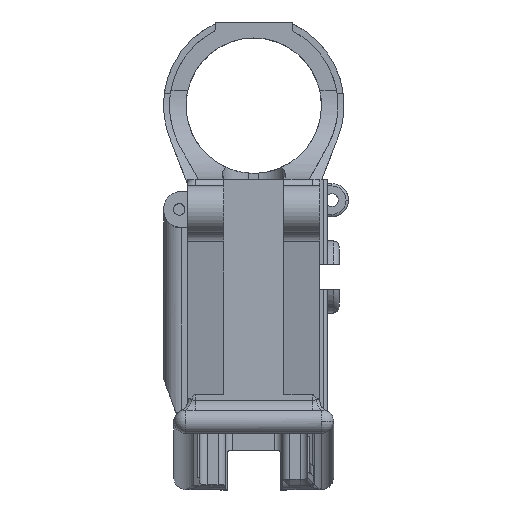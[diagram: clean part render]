
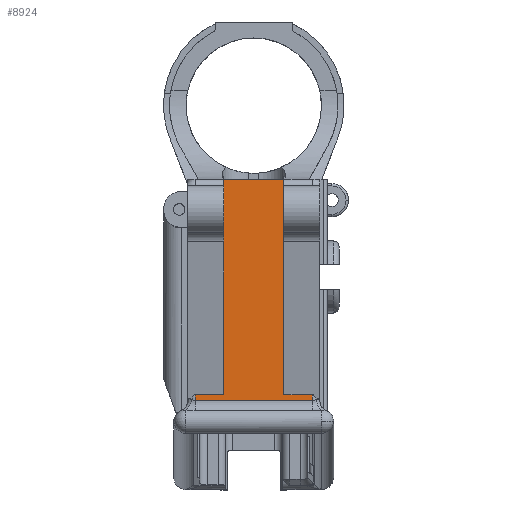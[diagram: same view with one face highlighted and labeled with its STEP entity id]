
A CAD part, top view. The second image highlights one B-rep face of the part: STEP entity #8924.
In plain terms, the highlighted planar face has unit normal (0, 0, 1).
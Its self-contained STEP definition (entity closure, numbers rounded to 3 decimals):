
#10 = DIRECTION ( 'NONE',  ( 1., 0., 0. ) ) ;
#29 = DIRECTION ( 'NONE',  ( 0., 0., 1. ) ) ;
#123 = PLANE ( 'NONE',  #19678 ) ;
#130 = CARTESIAN_POINT ( 'NONE',  ( -187.157, -8.341, 108.826 ) ) ;
#604 = ORIENTED_EDGE ( 'NONE', *, *, #17709, .F. ) ;
#607 = ORIENTED_EDGE ( 'NONE', *, *, #17763, .F. ) ;
#608 = ORIENTED_EDGE ( 'NONE', *, *, #17771, .F. ) ;
#609 = ORIENTED_EDGE ( 'NONE', *, *, #17729, .T. ) ;
#610 = ORIENTED_EDGE ( 'NONE', *, *, #17727, .T. ) ;
#611 = ORIENTED_EDGE ( 'NONE', *, *, #17723, .F. ) ;
#612 = ORIENTED_EDGE ( 'NONE', *, *, #17767, .F. ) ;
#613 = ORIENTED_EDGE ( 'NONE', *, *, #17721, .T. ) ;
#5178 = CARTESIAN_POINT ( 'NONE',  ( -69.868, -18.243, 108.826 ) ) ;
#5179 = CARTESIAN_POINT ( 'NONE',  ( -69.868, -19.471, 108.826 ) ) ;
#5182 = CARTESIAN_POINT ( 'NONE',  ( -63.823, -18.243, 108.826 ) ) ;
#5184 = CARTESIAN_POINT ( 'NONE',  ( -45.078, -19.471, 108.826 ) ) ;
#5202 = CARTESIAN_POINT ( 'NONE',  ( -51.123, 27.219, 108.826 ) ) ;
#5211 = CARTESIAN_POINT ( 'NONE',  ( -51.123, -18.243, 108.826 ) ) ;
#5212 = CARTESIAN_POINT ( 'NONE',  ( -45.078, -18.243, 108.826 ) ) ;
#5258 = CARTESIAN_POINT ( 'NONE',  ( -63.823, 27.219, 108.826 ) ) ;
#7894 = LINE ( 'NONE', #10567, #7902 ) ;
#7902 = VECTOR ( 'NONE', #10572, 1000. ) ;
#7914 = LINE ( 'NONE', #10597, #7920 ) ;
#7920 = VECTOR ( 'NONE', #10602, 1000. ) ;
#7921 = LINE ( 'NONE', #10603, #7923 ) ;
#7923 = VECTOR ( 'NONE', #10601, 1000. ) ;
#7924 = LINE ( 'NONE', #10620, #7931 ) ;
#7926 = LINE ( 'NONE', #10615, #7928 ) ;
#7928 = VECTOR ( 'NONE', #10611, 1000. ) ;
#7931 = VECTOR ( 'NONE', #10614, 1000. ) ;
#7966 = LINE ( 'NONE', #10748, #7972 ) ;
#7972 = VECTOR ( 'NONE', #10754, 1000. ) ;
#7975 = LINE ( 'NONE', #10767, #7977 ) ;
#7977 = VECTOR ( 'NONE', #10768, 1000. ) ;
#7982 = LINE ( 'NONE', #10775, #7985 ) ;
#7985 = VECTOR ( 'NONE', #10777, 1000. ) ;
#8924 = ADVANCED_FACE ( 'NONE', ( #14368 ), #123, .T. ) ;
#9338 = VERTEX_POINT ( 'NONE', #5178 ) ;
#9339 = VERTEX_POINT ( 'NONE', #5179 ) ;
#9342 = VERTEX_POINT ( 'NONE', #5182 ) ;
#9344 = VERTEX_POINT ( 'NONE', #5184 ) ;
#9362 = VERTEX_POINT ( 'NONE', #5202 ) ;
#9371 = VERTEX_POINT ( 'NONE', #5211 ) ;
#9372 = VERTEX_POINT ( 'NONE', #5212 ) ;
#9418 = VERTEX_POINT ( 'NONE', #5258 ) ;
#10567 = CARTESIAN_POINT ( 'NONE',  ( -187.157, 27.219, 108.826 ) ) ;
#10572 = DIRECTION ( 'NONE',  ( 1., 0., 0. ) ) ;
#10597 = CARTESIAN_POINT ( 'NONE',  ( -63.823, 60.747, 108.826 ) ) ;
#10601 = DIRECTION ( 'NONE',  ( 0., -1., 0. ) ) ;
#10602 = DIRECTION ( 'NONE',  ( 0., -1., 0. ) ) ;
#10603 = CARTESIAN_POINT ( 'NONE',  ( -51.123, 60.747, 108.826 ) ) ;
#10611 = DIRECTION ( 'NONE',  ( 1., 0., 0. ) ) ;
#10614 = DIRECTION ( 'NONE',  ( 0., 1., 0. ) ) ;
#10615 = CARTESIAN_POINT ( 'NONE',  ( -45.078, -19.471, 108.826 ) ) ;
#10620 = CARTESIAN_POINT ( 'NONE',  ( -45.078, -8.341, 108.826 ) ) ;
#10748 = CARTESIAN_POINT ( 'NONE',  ( -69.868, -8.341, 108.826 ) ) ;
#10754 = DIRECTION ( 'NONE',  ( 0., 1., 0. ) ) ;
#10767 = CARTESIAN_POINT ( 'NONE',  ( -187.157, -18.243, 108.826 ) ) ;
#10768 = DIRECTION ( 'NONE',  ( 1., 0., 0. ) ) ;
#10775 = CARTESIAN_POINT ( 'NONE',  ( -187.157, -18.243, 108.826 ) ) ;
#10777 = DIRECTION ( 'NONE',  ( 1., 0., 0. ) ) ;
#14368 = FACE_OUTER_BOUND ( 'NONE', #20491, .T. ) ;
#17709 = EDGE_CURVE ( 'NONE', #9418, #9362, #7894, .T. ) ;
#17721 = EDGE_CURVE ( 'NONE', #9418, #9342, #7914, .T. ) ;
#17723 = EDGE_CURVE ( 'NONE', #9362, #9371, #7921, .T. ) ;
#17727 = EDGE_CURVE ( 'NONE', #9339, #9344, #7926, .T. ) ;
#17729 = EDGE_CURVE ( 'NONE', #9344, #9372, #7924, .T. ) ;
#17763 = EDGE_CURVE ( 'NONE', #9339, #9338, #7966, .T. ) ;
#17767 = EDGE_CURVE ( 'NONE', #9371, #9372, #7975, .T. ) ;
#17771 = EDGE_CURVE ( 'NONE', #9338, #9342, #7982, .T. ) ;
#19678 = AXIS2_PLACEMENT_3D ( 'NONE', #130, #29, #10 ) ;
#20491 = EDGE_LOOP ( 'NONE', ( #608, #607, #610, #609, #612, #611, #604, #613 ) ) ;
